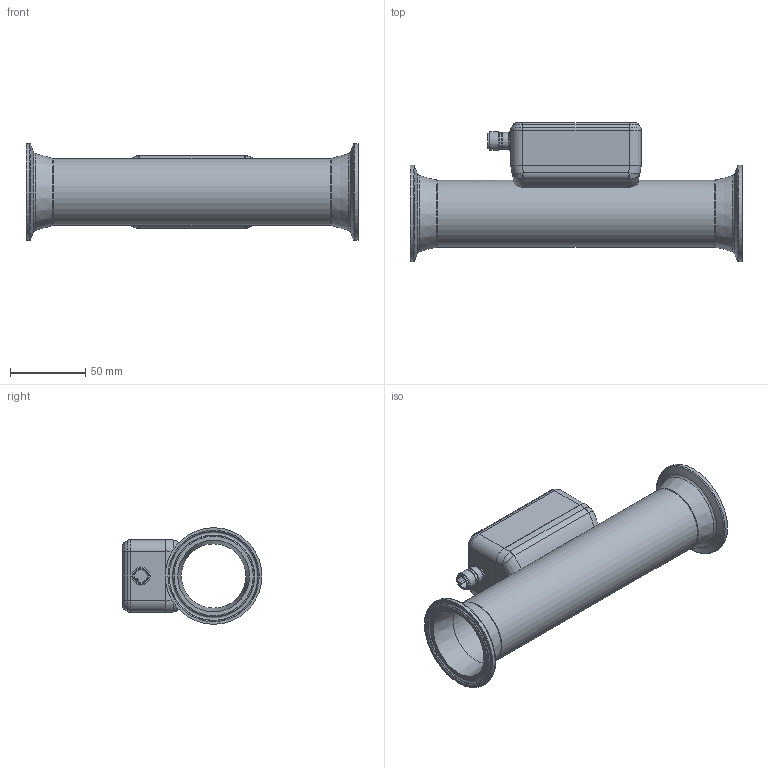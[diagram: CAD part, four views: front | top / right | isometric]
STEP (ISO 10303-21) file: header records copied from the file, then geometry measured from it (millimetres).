
FILE_DESCRIPTION(/* description */ ('STEP AP203'),/* implementation_level */ '2;1');
FILE_NAME(/* name */ 'P_MZ_300_0380',/* time_stamp */ '2023-09-18T09:59:20+02:00',/* author */ ('License CC BY-ND 4.0'),/* organization */ ('CADENAS'),/* preprocessor_version */ 'ST-DEVELOPER v19.3',/* originating_system */ 'PARTsolutions',/* authorisation */ ' ');
FILE_SCHEMA (('CONFIG_CONTROL_DESIGN'));
Length unit declared in the file: millimetre
Products named in the file (1): P_MZ_300_0380
Bounding box: 220 x 92.66 x 64 mm (x, y, z)
Volume: 201749.1 mm3; surface area: 81789.6 mm2
Topology: 1 solids, 1 shells, 140 faces, 307 edges, 176 vertices
Faces by surface type: cylinder 39, plane 38, torus 29, cone 22, bspline 12
Full cylindrical faces by diameter (mm): 8.4 x1, 10.55 x1, 10.8 x1, 11.3 x1, 12 x2, 42.65 x1, 44.45 x1, 64 x2
Entity records: 4682 total; most frequent: CARTESIAN_POINT 831, DIRECTION 626, ORIENTED_EDGE 504, AXIS2_PLACEMENT_3D 265, EDGE_CURVE 252, EDGE_LOOP 202, FACE_BOUND 202, VERTEX_POINT 174
